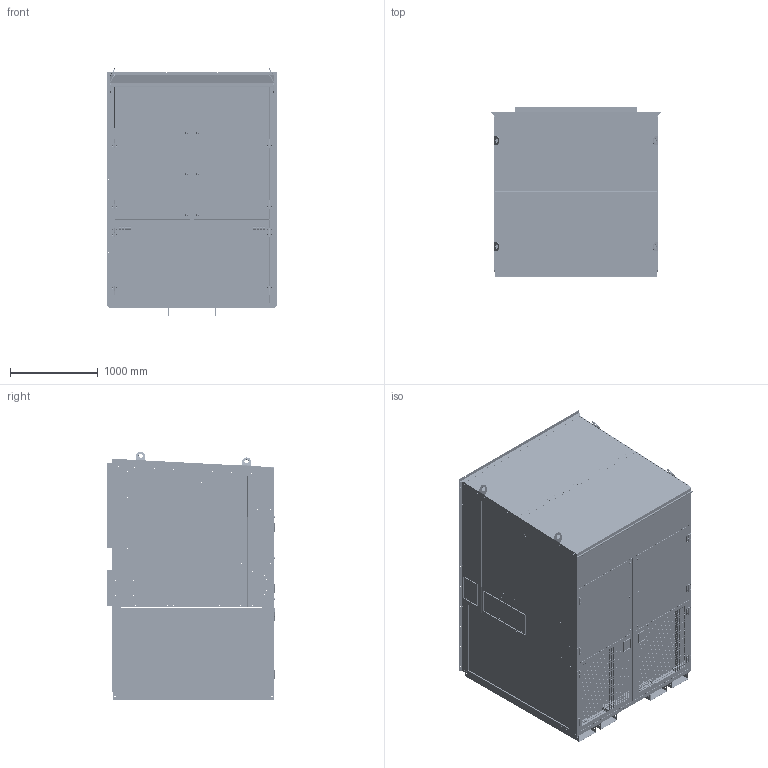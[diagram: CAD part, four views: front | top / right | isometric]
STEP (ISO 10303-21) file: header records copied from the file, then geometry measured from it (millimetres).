
FILE_DESCRIPTION (( 'STEP AP214' ), '1' );
FILE_NAME ('CFA3 300-360 RF NON ECONO.STEP', '2022-09-13T14:37:04', ( '' ), ( '' ), 'SwSTEP 2.0', 'SolidWorks 2020', '' );
FILE_SCHEMA (( 'AUTOMOTIVE_DESIGN' ));
Length unit declared in the file: inch
Products named in the file (73): MD13088_MD13088; MD09935; MD13158_MD13158; MD09947; SML11006X; SML10008X; 60328; 02145; SML11005X; MD09758; MB09519; MD13156_MD13156; MD11579; MD13103_MD13103; MD09916; 02146_FLEXIBLE; MD13088; MD09758-SW; MD13159; B2CONDENSERFANASSY-300-360; 92545; MD09760; MD09915; MD13159_MD13159; 81761; MD09526; 02146 RH BOTTOM; MD11581; MD13158; MD09858; ND04575; SML10007X; SML24023X; MD09558; MD13325; 60329; MD10821; SML11002X; MD13103; MD13104_MD13104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
Assembly tree (117 placements, depth 3):
  CFA3 300-360 RF NON ECONO
    MB09519  x2
    MD09526
    MD09558  x2
    MD09758-SW
      MD09758
      MD09760
      MD09762  x5
    MD09801  x4
    MD09840
    MD09841
    MD09842
    MD09853
    MD09858
    MD09879
    MD09915
    MD09916
    MD09925
    MD09931  x2
    MD09934
    MD09935  x2
    MD09942  x2
    MD09943
    MD09947  x2
    MD10821
    MD10822
    MD11579  x2
      MD11579
      MD11581
    02145  x4
      02145 LH BOTTOM
      02145 LH TOP
    02146_FLEXIBLE  x4
      02146 RH BOTTOM
      02146 RH TOP
    60328
    60329
    81761  x2
    91039  x6
    92545  x4
    MD13088_MD13088
      MD13088
    MD13089_MD13089
      MD13089
    MD13103_MD13103
      MD13103
    MD13104_MD13104
      MD13104
    MD13156_MD13156
      MD13156
    MD13157_MD13157
      MD13157
    MD13158_MD13158
      MD13158
    MD13159_MD13159
      MD13159
    MD13314_MD13314  x2
      MD13314
      ND04575
    MD13325
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Bounding box: 1934.97 x 1929.08 x 2826.44 mm (x, y, z)
Volume: 432839131.5 mm3; surface area: 107421958.3 mm2
Topology: 146 solids, 236 shells, 20238 faces, 55530 edges, 35810 vertices
Faces by surface type: plane 12664, cylinder 6170, bspline 646, cone 324, torus 298, sphere 136
Entity records: 630968 total; most frequent: CARTESIAN_POINT 171020, ORIENTED_EDGE 90408, DIRECTION 85453, EDGE_CURVE 45348, LINE 35309, VECTOR 35309, VERTEX_POINT 29575, AXIS2_PLACEMENT_3D 25072
